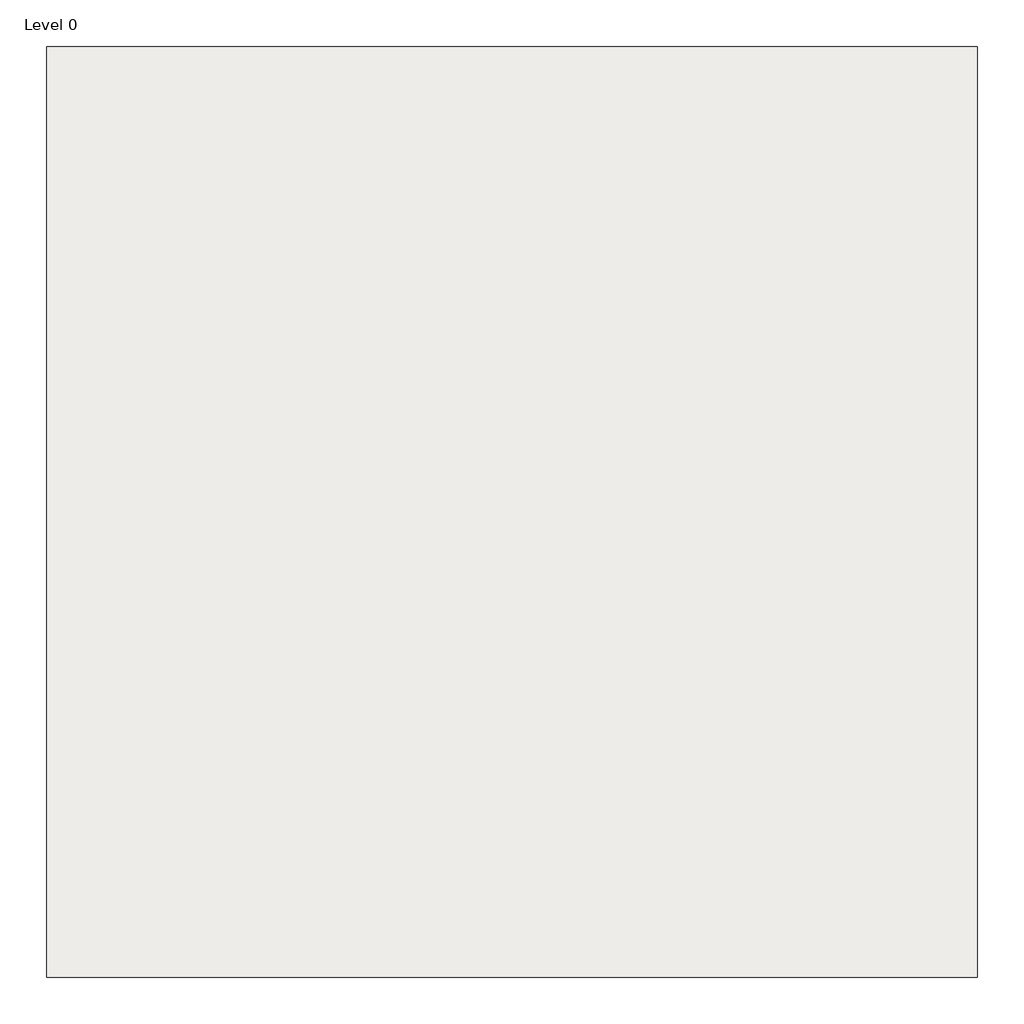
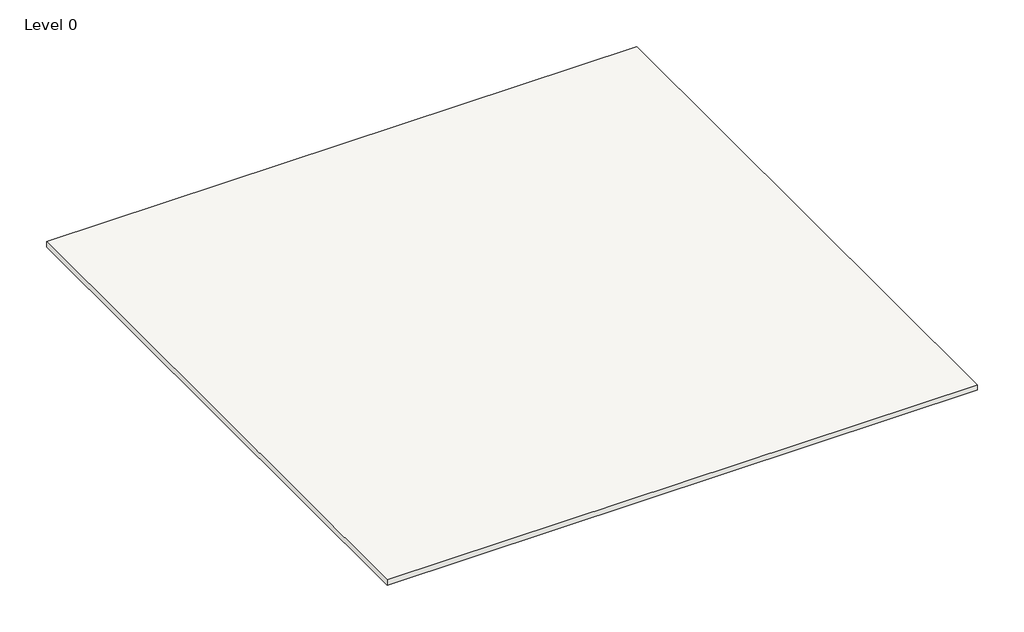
# One storey: 1 covering.
"""IFC4 building model written with IfcOpenShell, lengths in millimetres."""

from ifc_helpers import new_model, si_unit, frame, origin, place, context, project, spatial, polyline, outline, extrude, element, save

model = new_model("IFC4")

# Units and contexts
model_context = context("Model", 3, world=origin())
ifc_project = project(units=[si_unit("LENGTHUNIT", "METRE", prefix="MILLI")], contexts=[model_context])

# Site, building, storey
site = spatial("IfcSite", under=ifc_project)
building = spatial("IfcBuilding", under=site)
storey = spatial("IfcBuildingStorey", under=building, Name="Level 0", Elevation=0.0)

# Covering
placement = place(None, origin())
element("IfcCovering", 1, ObjectType="NBS_CompositePrime_HardwoodDeckBoards_HDDeckDualSystem", at=placement, inside=storey, context=model_context, shape_type="SweptSolid", body=[
    extrude(outline(polyline([(0.0, -2500.0), (0.0, 0.0), (2500.0, 0.0), (2500.0, -2500.0), (0.0, -2500.0)])), frame((0.0, 0.0, -22.5), z_axis=(0.0, 0.0, 1.0), x_axis=(1.0, 0.0, 0.0)), (0.0, 0.0, 1.0), 22.5),
])

save(model, "model.ifc")
